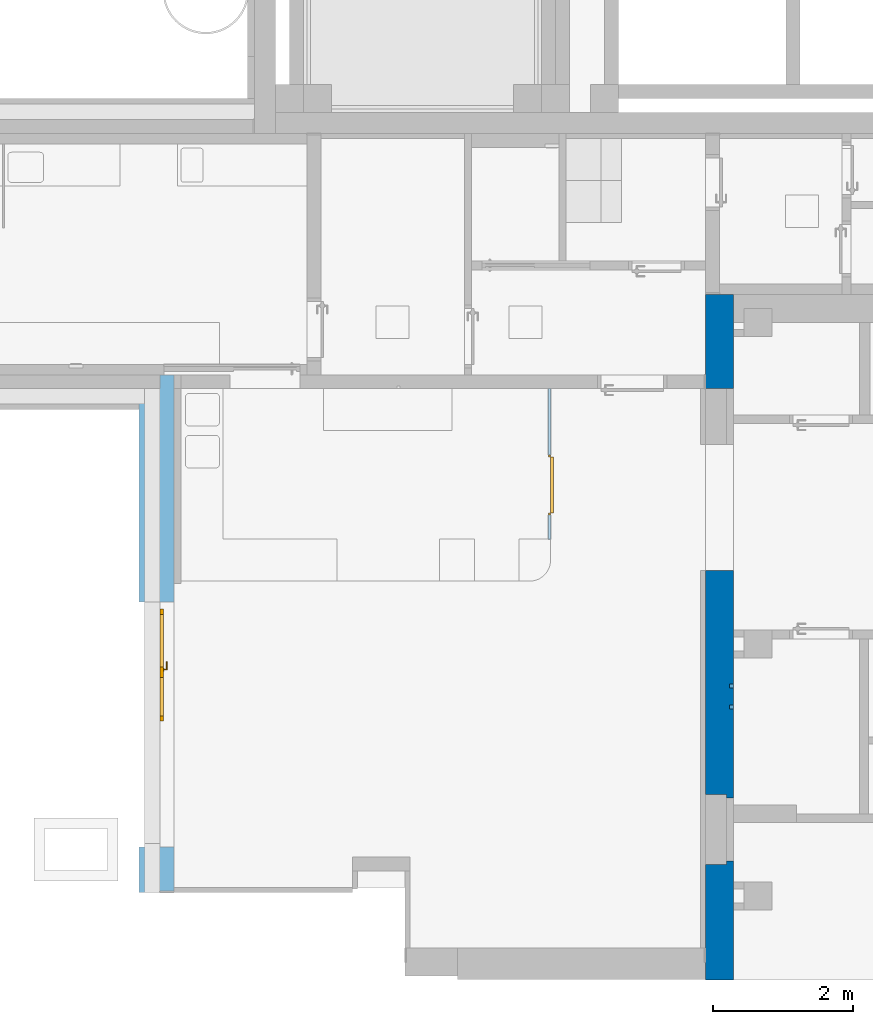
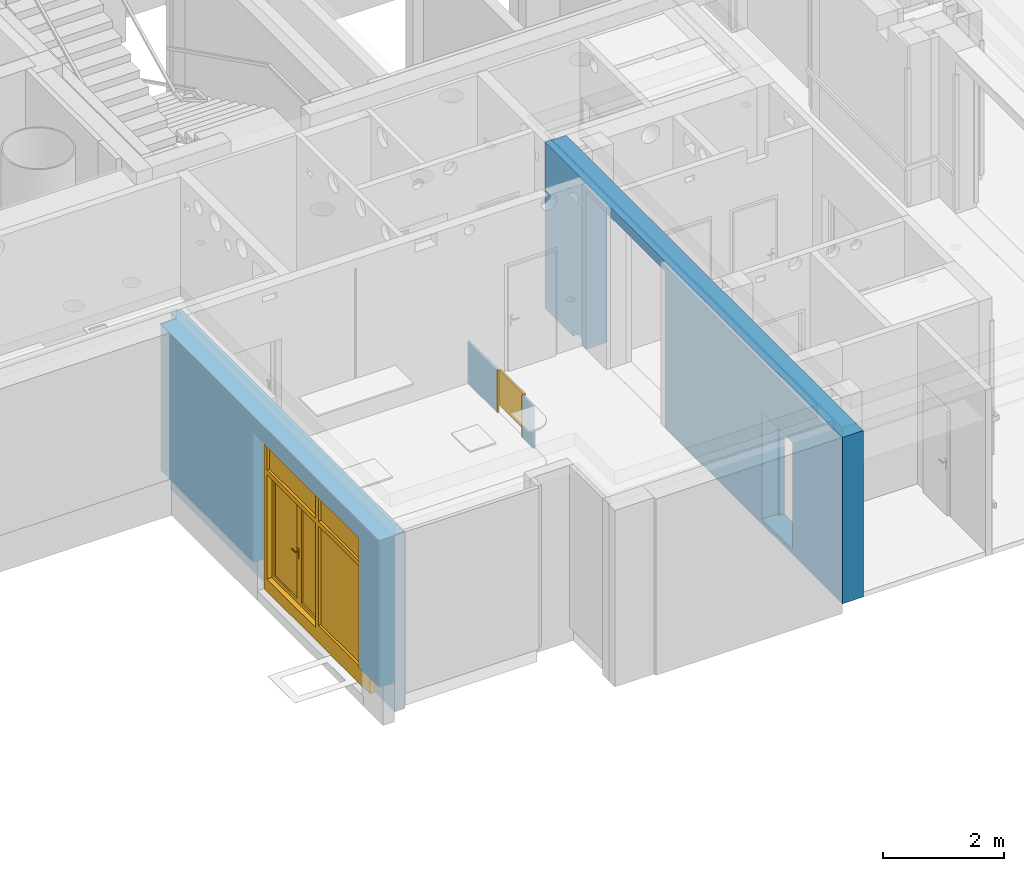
# One storey, part 66 of 140: 2 doors, 1 wall, 9 openings, plus 2 elements that do not belong to this part.
"""IFC4 building model written with IfcOpenShell, lengths in metres."""

import ifcopenshell
import ifcopenshell.guid

model = None  # the IFC model being written
_history = None  # IfcOwnerHistory: only IFC2X3 demands one
_inside = {}  # id of a spatial element -> (the spatial element, [elements in it])
_under = {}  # id of a project, library or spatial element -> (it, [spatial elements below it])
_declared = {}  # id of a project -> (the project, [libraries it declares])
_typed = {}  # id of a type object -> (the type object, [elements of that type])
_made_of = {}  # id of a material, layer set ... -> (it, [elements and type objects made of it])


def new_model(schema):
    """Start an empty IFC model of exactly this schema.

    Asked for "IFC4X3", IfcOpenShell would pick the latest addendum, in which some entities
    have other attributes; the version numbers below select the first issue.
    IFC2X3 requires an IfcOwnerHistory on every rooted entity: one is made here for all.
    """
    global model, _history
    if schema == "IFC4X3":
        model = ifcopenshell.file(schema_version=(4, 3, 0, 0))
    else:
        model = ifcopenshell.file(schema=schema)
    _inside.clear()
    _under.clear()
    _declared.clear()
    _typed.clear()
    _made_of.clear()
    _history = None
    if model.schema == "IFC2X3":
        org = make("IfcOrganization", Name="unknown")
        user = make(
            "IfcPersonAndOrganization",
            ThePerson=make("IfcPerson", FamilyName="unknown"),
            TheOrganization=org,
        )
        app = make(
            "IfcApplication",
            ApplicationDeveloper=org,
            Version="unknown",
            ApplicationFullName="unknown",
            ApplicationIdentifier="unknown",
        )
        _history = make(
            "IfcOwnerHistory",
            OwningUser=user,
            OwningApplication=app,
            ChangeAction="ADDED",
            CreationDate=0,
        )
    return model


def make(cls, **values):
    """One entity of the class cls with the attributes given. An attribute that is None is left unset."""
    return model.create_entity(
        cls, **{name: value for name, value in values.items() if value is not None}
    )


def entity(cls, *values):
    """Any entity or typed value of the class cls, its attributes in the order of the schema. None: left unset."""
    e = model.create_entity(cls)
    for i, value in enumerate(values):
        if value is not None:
            e[i] = value
    return e


def rooted(cls, **values):
    """An entity with a GlobalId (a new one), such as an element, a storey or a relation."""
    return make(cls, GlobalId=ifcopenshell.guid.new(), OwnerHistory=_history, **values)


def si_unit(unit_type, name, prefix=None):
    """IfcSIUnit, for example si_unit("LENGTHUNIT", "METRE", prefix="MILLI")."""
    return make("IfcSIUnit", UnitType=unit_type, Prefix=prefix, Name=name)


def converted_unit(unit_type, name, factor, base, dimensions=None, offset=None):
    """IfcConversionBasedUnit, such as the inch: factor (a typed value) times the base unit."""
    return make(
        "IfcConversionBasedUnit"
        if offset is None
        else "IfcConversionBasedUnitWithOffset",
        ConversionOffset=offset,
        Dimensions=None
        if dimensions is None
        else entity("IfcDimensionalExponents", *dimensions),
        UnitType=unit_type,
        Name=name,
        ConversionFactor=make(
            "IfcMeasureWithUnit", ValueComponent=factor, UnitComponent=base
        ),
    )


def derived_unit(unit_type, elements):
    """IfcDerivedUnit: a product of units, each with its exponent."""
    return make(
        "IfcDerivedUnit",
        Elements=[
            make("IfcDerivedUnitElement", Unit=unit, Exponent=power)
            for unit, power in elements
        ],
        UnitType=unit_type,
    )


def assignment(units):
    """IfcUnitAssignment: the units of a project."""
    return None if units is None else make("IfcUnitAssignment", Units=units)


def point(xyz):
    """IfcCartesianPoint."""
    return None if xyz is None else make("IfcCartesianPoint", Coordinates=xyz)


def direction(xyz):
    """IfcDirection."""
    return None if xyz is None else make("IfcDirection", DirectionRatios=xyz)


def frame(location, z_axis=None, x_axis=None):
    """IfcAxis2Placement3D, a coordinate frame: its origin and axes. An axis left out is left unset."""
    return make(
        "IfcAxis2Placement3D",
        Location=point(location),
        Axis=direction(z_axis),
        RefDirection=direction(x_axis),
    )


def frame_2d(location, x_axis=None):
    """IfcAxis2Placement2D, a coordinate frame in the plane: its origin and x axis."""
    return make(
        "IfcAxis2Placement2D", Location=point(location), RefDirection=direction(x_axis)
    )


def origin():
    """The frame at (0, 0, 0) with its axes left unset."""
    return frame((0.0, 0.0, 0.0))


def origin_with_axes():
    """The frame at (0, 0, 0) with the z axis (0, 0, 1) and the x axis (1, 0, 0) written out."""
    return frame((0.0, 0.0, 0.0), z_axis=(0.0, 0.0, 1.0), x_axis=(1.0, 0.0, 0.0))


def place(relative_to, where):
    """IfcLocalPlacement: puts the frame where relative to a parent placement (None: the world)."""
    return make(
        "IfcLocalPlacement", PlacementRelTo=relative_to, RelativePlacement=where
    )


def context(
    kind, dimensions, precision=None, world=None, true_north=None, identifier=None
):
    """IfcGeometricRepresentationContext, for example the 3D "Model" context."""
    return make(
        "IfcGeometricRepresentationContext",
        ContextIdentifier=identifier,
        ContextType=kind,
        CoordinateSpaceDimension=dimensions,
        Precision=precision,
        WorldCoordinateSystem=world,
        TrueNorth=true_north,
    )


def subcontext(parent, identifier, kind, view, scale=None):
    """IfcGeometricRepresentationSubContext, for example "Body" below "Model"."""
    return make(
        "IfcGeometricRepresentationSubContext",
        ContextIdentifier=identifier,
        ContextType=kind,
        ParentContext=parent,
        TargetScale=scale,
        TargetView=view,
    )


def project(units=None, contexts=None):
    """IfcProject with its units and contexts."""
    return rooted(
        "IfcProject",
        Name="project",
        RepresentationContexts=contexts,
        UnitsInContext=assignment(units),
    )


def spatial(cls, under=None, at=None, **own):
    """A site, building, storey or space (cls), placed at a placement, below another one or the project."""
    s = rooted(cls, ObjectPlacement=at, **own)
    if under is not None:
        _under.setdefault(under.id(), (under, []))[1].append(s)
    return s


def polyline(points):
    """IfcPolyline through the points."""
    return make("IfcPolyline", Points=[point(p) for p in points])


def profile(cls, at=None, kind="AREA", **sizes):
    """A parametric profile (cls). Its sizes go by their IFC names, for example OverallWidth=200.0."""
    return make(cls, ProfileType=kind, Position=at, **sizes)


def rectangle(**sizes):
    """IfcRectangleProfileDef."""
    return profile("IfcRectangleProfileDef", **sizes)


def outline(outer, holes=None, kind="AREA"):
    """IfcArbitraryClosedProfileDef: a profile drawn as a closed curve; with holes, ...WithVoids."""
    if holes is None:
        return make("IfcArbitraryClosedProfileDef", ProfileType=kind, OuterCurve=outer)
    return make(
        "IfcArbitraryProfileDefWithVoids",
        ProfileType=kind,
        OuterCurve=outer,
        InnerCurves=holes,
    )


def extrude(swept, where, along, depth):
    """IfcExtrudedAreaSolid: the profile swept, set in the frame where, extruded along a direction by depth."""
    return make(
        "IfcExtrudedAreaSolid",
        SweptArea=swept,
        Position=where,
        ExtrudedDirection=direction(along),
        Depth=depth,
    )


def clip(a, b, op="DIFFERENCE"):
    """IfcBooleanClippingResult: the solid a cut by the half space b."""
    return make(
        "IfcBooleanClippingResult", Operator=op, FirstOperand=a, SecondOperand=b
    )


def bounded_halfspace(plane, agree, where, boundary):
    """IfcPolygonalBoundedHalfSpace: a half space limited to a polygon's prism."""
    return make(
        "IfcPolygonalBoundedHalfSpace",
        BaseSurface=make("IfcPlane", Position=plane),
        AgreementFlag=agree,
        Position=where,
        PolygonalBoundary=boundary,
    )


def faces_of(points, faces, orient=None, outer=None):
    """IfcFace entities. A face is a list of loops; a loop is a list of indices into points, from 0.

    orient and outer hold one flag for each loop. By default every Orientation is true, the
    first loop of a face is its IfcFaceOuterBound and the others are IfcFaceBound.
    """
    made = []
    for i, loops in enumerate(faces):
        bounds = []
        for j, loop in enumerate(loops):
            is_outer = j == 0 if outer is None else outer[i][j]
            bounds.append(
                make(
                    "IfcFaceOuterBound" if is_outer else "IfcFaceBound",
                    Bound=make("IfcPolyLoop", Polygon=[points[k] for k in loop]),
                    Orientation=True if orient is None else orient[i][j],
                )
            )
        made.append(make("IfcFace", Bounds=bounds))
    return made


def closed_shell(faces, orient=None, outer=None):
    """The faces of one IfcClosedShell. faceted_brep and surface_model build it on their shared points."""
    return ("IfcClosedShell", faces, orient, outer)


def open_shell(faces, orient=None, outer=None):
    """The faces of one IfcOpenShell. surface_model builds it on its shared points."""
    return ("IfcOpenShell", faces, orient, outer)


def faceted_brep(points, faces, orient=None, outer=None, voids=None):
    """IfcFacetedBrep: a solid bounded by flat faces; with voids (closed shells), ...WithVoids."""
    shared = [point(p) for p in points]
    hull = make("IfcClosedShell", CfsFaces=faces_of(shared, faces, orient, outer))
    if voids is None:
        return make("IfcFacetedBrep", Outer=hull)
    return make(
        "IfcFacetedBrepWithVoids",
        Outer=hull,
        Voids=[
            make(cls, CfsFaces=faces_of(shared, fs, o, b)) for cls, fs, o, b in voids
        ],
    )


def surface_model(cls, points, shells):
    """IfcFaceBasedSurfaceModel or IfcShellBasedSurfaceModel (cls): surfaces that need not close."""
    shared = [point(p) for p in points]
    made = [make(c, CfsFaces=faces_of(shared, fs, o, b)) for c, fs, o, b in shells]
    if cls == "IfcFaceBasedSurfaceModel":
        return make(cls, FbsmFaces=made)
    return make(cls, SbsmBoundary=made)


def shape(context_of_items, identifier, shape_type, items):
    """IfcShapeRepresentation: the items that make up one representation, for example the "Body"."""
    return make(
        "IfcShapeRepresentation",
        ContextOfItems=context_of_items,
        RepresentationIdentifier=identifier,
        RepresentationType=shape_type,
        Items=items,
    )


def source(mapping_origin, context_of_items, identifier, shape_type, items):
    """IfcRepresentationMap: a shape defined once, which mapped items show again and again."""
    return make(
        "IfcRepresentationMap",
        MappingOrigin=mapping_origin,
        MappedRepresentation=shape(context_of_items, identifier, shape_type, items),
    )


def transform(
    local_origin,
    x_axis=None,
    y_axis=None,
    z_axis=None,
    scale=None,
    scale2=None,
    scale3=None,
    uniform=True,
):
    """IfcCartesianTransformationOperator3D, or its non-uniform kind. x_axis, y_axis, z_axis: its Axis1, 2, 3."""
    if uniform:
        return make(
            "IfcCartesianTransformationOperator3D",
            Axis1=direction(x_axis),
            Axis2=direction(y_axis),
            LocalOrigin=point(local_origin),
            Scale=scale,
            Axis3=direction(z_axis),
        )
    return make(
        "IfcCartesianTransformationOperator3DnonUniform",
        Axis1=direction(x_axis),
        Axis2=direction(y_axis),
        LocalOrigin=point(local_origin),
        Scale=scale,
        Axis3=direction(z_axis),
        Scale2=scale2,
        Scale3=scale3,
    )


def mapped(mapping_source, mapping_target):
    """IfcMappedItem: shows the shape of a source again, moved by a transform."""
    return make(
        "IfcMappedItem", MappingSource=mapping_source, MappingTarget=mapping_target
    )


def material(Name=None, Category=None):
    """IfcMaterial."""
    return make("IfcMaterial", Name=Name, Category=Category)


def layer(
    of_material, thickness, ventilated=None, Name=None, Category=None, Priority=None
):
    """IfcMaterialLayer: one layer of a wall or slab, of a material (None: an air gap)."""
    return make(
        "IfcMaterialLayer",
        Material=of_material,
        LayerThickness=thickness,
        IsVentilated=ventilated,
        Name=Name,
        Category=Category,
        Priority=Priority,
    )


def layer_set(layers, Name=None):
    """IfcMaterialLayerSet."""
    return make("IfcMaterialLayerSet", MaterialLayers=layers, LayerSetName=Name)


def layer_usage(for_layer_set, set_direction, sense, offset, extent=None):
    """IfcMaterialLayerSetUsage: how a layer set lies in its element."""
    return make(
        "IfcMaterialLayerSetUsage",
        ForLayerSet=for_layer_set,
        LayerSetDirection=set_direction,
        DirectionSense=sense,
        OffsetFromReferenceLine=offset,
        ReferenceExtent=extent,
    )


def made_of(thing, what):
    """Note that an element or type object is made of a material, layer set ...; save() writes the relation."""
    if what is not None:
        _made_of.setdefault(what.id(), (what, []))[1].append(thing)
    return thing


def type_object(cls, material=None, **own):
    """A type object (cls), such as IfcWallType, which elements share."""
    return made_of(rooted(cls, **own), material)


def element(
    cls,
    number,
    at=None,
    inside=None,
    cuts=None,
    type_object=None,
    material=None,
    context=None,
    identifier="Body",
    shape_type=None,
    held_by="IfcProductDefinitionShape",
    body=None,
    shapes=None,
    **own,
):
    """One element of the class cls, such as IfcWall. Its Tag is "e" and its number.

    at: its placement. inside: the storey or other place that contains it. cuts: it is an
    opening in that element (IfcRelVoidsElement). A single representation is given by context,
    identifier, shape_type and body (its items); several are given by shapes. held_by: the class
    of the entity that holds the representations. save() writes the other relations.
    """
    e = rooted(cls, Tag="e%d" % number, ObjectPlacement=at, **own)
    if body is not None:
        shapes = [shape(context, identifier, shape_type, body)]
    if shapes is not None:
        e.Representation = make(held_by, Representations=shapes)
    if inside is not None:
        _inside.setdefault(inside.id(), (inside, []))[1].append(e)
    if cuts is not None:
        rooted(
            "IfcRelVoidsElement", RelatingBuildingElement=cuts, RelatedOpeningElement=e
        )
    if type_object is not None:
        _typed.setdefault(type_object.id(), (type_object, []))[1].append(e)
    return made_of(e, material)


def fill(opening, filler):
    """IfcRelFillsElement: the door or window that sits in an opening."""
    return rooted(
        "IfcRelFillsElement",
        RelatingOpeningElement=opening,
        RelatedBuildingElement=filler,
    )


def aggregate(whole, parts):
    """IfcRelAggregates: a whole, such as a stair, and the parts it consists of."""
    return rooted("IfcRelAggregates", RelatingObject=whole, RelatedObjects=parts)


def save(model, path):
    """Write the relations noted so far, then the file.

    IfcRelAggregates (storeys below a building ...), IfcRelContainedInSpatialStructure (elements
    in a storey), IfcRelDefinesByType, IfcRelAssociatesMaterial and IfcRelDeclares: one each for
    every whole, place, type object, material and project.
    """
    for whole, parts in _under.values():
        aggregate(whole, parts)
    for where, things in _inside.values():
        rooted(
            "IfcRelContainedInSpatialStructure",
            RelatedElements=things,
            RelatingStructure=where,
        )
    for kind, things in _typed.values():
        rooted("IfcRelDefinesByType", RelatedObjects=things, RelatingType=kind)
    for what, things in _made_of.values():
        rooted("IfcRelAssociatesMaterial", RelatedObjects=things, RelatingMaterial=what)
    for by, libraries in _declared.values():
        rooted("IfcRelDeclares", RelatingContext=by, RelatedDefinitions=libraries)
    model.write(path)


model = new_model("IFC4")

# Units and contexts
model_context = context("Model", 3, precision=1e-05, world=origin())
body_context = subcontext(model_context, "Body", "Model", "MODEL_VIEW")
ifc_project = project(units=[si_unit("LENGTHUNIT", "METRE"), si_unit("AREAUNIT", "SQUARE_METRE"), si_unit("VOLUMEUNIT", "CUBIC_METRE"), si_unit("MASSUNIT", "GRAM", prefix="KILO"), converted_unit("PLANEANGLEUNIT", "DEGREE", entity("IfcPlaneAngleMeasure", 0.0174532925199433), si_unit("PLANEANGLEUNIT", "RADIAN"), dimensions=[0, 0, 0, 0, 0, 0, 0]), derived_unit("THERMALTRANSMITTANCEUNIT", [(si_unit("POWERUNIT", "WATT"), 1), (si_unit("THERMODYNAMICTEMPERATUREUNIT", "KELVIN"), -1), (si_unit("LENGTHUNIT", "METRE"), -2)]), derived_unit("VOLUMETRICFLOWRATEUNIT", [(si_unit("LENGTHUNIT", "METRE"), 3), (converted_unit("TIMEUNIT", "hour", entity("IfcTimeMeasure", 3600.0), si_unit("TIMEUNIT", "SECOND"), dimensions=[0, 0, 1, 0, 0, 0, 0]), -1), (si_unit("LENGTHUNIT", "METRE"), -1)])], contexts=[model_context])

# Site, building, storey
site_placement = place(None, origin())
site = spatial("IfcSite", under=ifc_project, at=site_placement, Name="3. ASŘ", CompositionType="ELEMENT")
building_placement = place(site_placement, origin())
building = spatial("IfcBuilding", under=site, at=building_placement, Name="Pavilon C", CompositionType="ELEMENT")
storey_placement = place(building_placement, origin())
storey = spatial("IfcBuildingStorey", under=building, at=storey_placement, Name="Půdorys 1.NP", CompositionType="ELEMENT", Elevation=0.0)

# Wall, openings
ifc_material_1 = material(Name="STÁVAJÍC KCE")
wall_1_placement = place(storey_placement, frame((36.8, -16.6, -0.1)))
wall_1 = element("IfcWall", 1, at=wall_1_placement, inside=storey, material=ifc_material_1, Name="STÁVAJÍCÍ KCE", context=body_context, shape_type="Brep", body=[
    faceted_brep([(0.0, 2.65, 2.25), (0.0, 1.65, 2.25), (0.3, 1.65, 2.25), (0.3, 2.65, 2.25), (0.3, 2.65, 0.1), (0.0, 2.65, 0.1), (0.0, 1.65, 0.1), (0.3, 1.65, 0.1), (0.3, 2.6, 2.12), (0.3, 2.6, 0.1), (0.3, 1.7, 0.1), (0.3, 1.7, 2.12), (0.0, 2.6, 2.12), (0.0, 2.6, 0.1), (0.0, 1.7, 2.12), (0.0, 1.7, 0.1), (0.4, 9.8, 0.0), (0.4, 0.0, 0.0), (0.4, 0.0, 3.35), (0.4, 9.8, 3.35), (0.0, 0.0, 0.0), (0.0, 0.0, 3.35), (0.0, 9.8, 0.0), (0.0, 9.8, 3.35)], [[[0, 1, 2, 3]], [[4, 5, 0, 3]], [[6, 7, 2, 1]], [[8, 9, 4, 3, 2, 7, 10, 11]], [[12, 13, 9, 8]], [[5, 4, 9, 13]], [[14, 12, 8, 11]], [[11, 10, 15, 14]], [[7, 6, 15, 10]], [[16, 17, 18, 19]], [[17, 20, 21, 18]], [[20, 22, 23, 21], [5, 13, 12, 14, 15, 6, 1, 0]], [[22, 16, 19, 23]], [[23, 19, 18, 21]], [[16, 22, 20, 17]]], orient=[[False], [False], [False], [False], [False], [False], [False], [False], [False], [False], [False], [False, False], [False], [False], [False]]),
])
opening_1_placement = place(wall_1_placement, frame((0.4, 3.97500000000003, -0.05), z_axis=(-1.0, 0.0, 0.0), x_axis=(0.0, 0.0, 1.0)))
element("IfcOpeningElement", 2, at=opening_1_placement, cuts=wall_1, Name="ZTI HL.100", ObjectType="Opening", context=body_context, shape_type="SweptSolid", body=[
    extrude(outline(polyline([(0.0, 0.15), (0.85, 0.15), (0.85, 0.0), (0.0, 0.0), (0.0, 0.15)])), origin_with_axes(), (0.0, 0.0, 1.0), 0.0999999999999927),
])
opening_2_placement = place(wall_1_placement, frame((0.4, 4.17000000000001, 0.67), z_axis=(-1.0, 0.0, 0.0), x_axis=(0.0, 0.0, 1.0)))
element("IfcOpeningElement", 3, at=opening_2_placement, cuts=wall_1, Name="ZTI HL.60", ObjectType="Opening", context=body_context, shape_type="SweptSolid", body=[
    extrude(outline(polyline([(0.0, 0.06), (2.28, 0.06), (2.28, 0.0), (0.0, 0.0), (0.0, 0.06)])), origin_with_axes(), (0.0, 0.0, 1.0), 0.06),
])
opening_3_placement = place(wall_1_placement, frame((0.399999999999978, 3.87000000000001, 0.67), z_axis=(-1.0, 0.0, 0.0), x_axis=(0.0, 0.0, 1.0)))
element("IfcOpeningElement", 4, at=opening_3_placement, cuts=wall_1, Name="ZTI HL.60", ObjectType="Opening", context=body_context, shape_type="SweptSolid", body=[
    extrude(outline(polyline([(0.0, 0.06), (2.28, 0.06), (2.28, 0.0), (0.0, 0.0), (0.0, 0.06)])), origin_with_axes(), (0.0, 0.0, 1.0), 0.06),
])
opening_4_placement = place(wall_1_placement, frame((0.4, 1.7, 0.1), z_axis=(-1.0, 0.0, 0.0), x_axis=(0.0, 0.0, 1.0)))
element("IfcOpeningElement", 5, at=opening_4_placement, cuts=wall_1, Name="Dveřní otvor", ObjectType="Opening", context=body_context, shape_type="SweptSolid", body=[
    extrude(outline(polyline([(0.0, 0.9), (2.02, 0.9), (2.02, 0.0), (0.0, 0.0), (0.0, 0.9)])), origin_with_axes(), (0.0, 0.0, 1.0), 0.4),
])
opening_5_placement = place(wall_1_placement, frame((0.0, 8.45, 0.0), z_axis=(1.0, 0.0, 0.0), x_axis=(0.0, 0.0, 1.0)))
element("IfcOpeningElement", 6, at=opening_5_placement, cuts=wall_1, Name="Dveřní otvor", ObjectType="Opening", context=body_context, shape_type="SweptSolid", body=[
    extrude(outline(polyline([(0.0, 2.6), (3.15, 2.6), (3.15, 0.0), (0.0, 0.0), (0.0, 2.6)])), origin_with_axes(), (0.0, 0.0, 1.0), 0.4),
])
opening_6_placement = place(wall_1_placement, frame((0.0, 9.04300000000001, 2.77), z_axis=(1.0, 0.0, 0.0), x_axis=(0.0, 0.0, 1.0)))
element("IfcOpeningElement", 7, at=opening_6_placement, cuts=wall_1, Name="ZTI", ObjectType="Opening", context=body_context, shape_type="SweptSolid", body=[
    extrude(outline(polyline([(0.0, 0.35), (0.15, 0.35), (0.15, 0.0), (0.0, 0.0), (0.0, 0.35)])), origin_with_axes(), (0.0, 0.0, 1.0), 0.4),
])
opening_7_placement = place(wall_1_placement, frame((0.0, 8.87910290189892, -0.02), z_axis=(1.0, 0.0, 0.0), x_axis=(0.0, 0.0, 1.0)))
element("IfcOpeningElement", 8, at=opening_7_placement, cuts=wall_1, Name="UT", ObjectType="Opening", context=body_context, shape_type="SweptSolid", body=[
    extrude(outline(polyline([(0.0, 0.3), (0.15, 0.3), (0.15, 0.0), (0.0, 0.0), (0.0, 0.3)])), origin_with_axes(), (0.0, 0.0, 1.0), 0.4),
])

# Wall, opening, door
ifc_material_2 = material(Name="ZELEZOBETONOVÁ KCE")
ifc_layer_1 = layer(ifc_material_2, 0.2)
ifc_material_3 = material(Name="MINERÁLNÍ VATA")
ifc_layer_2 = layer(ifc_material_3, 0.3)
ifc_layer_set_1 = layer_set([ifc_layer_1, ifc_layer_2])
ifc_layer_usage_1 = layer_usage(ifc_layer_set_1, "AXIS2", "POSITIVE", 0.0)
wall_2_placement = place(storey_placement, frame((29.2, -15.33, -0.3), z_axis=(0.0, 0.0, 1.0), x_axis=(0.0, 1.0, 0.0)))
wall_2 = element("IfcWall", 9, at=wall_2_placement, inside=storey, material=ifc_layer_usage_1, Name="ZELEZOBETONOVÁ KCE", context=body_context, shape_type="Clipping", body=[
    clip(extrude(outline(polyline([(0.02, -0.5), (7.39999999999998, -0.5), (7.39999999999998, -0.3), (7.19999999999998, -0.3), (7.19999999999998, 0.0), (0.0, 0.0), (0.0, -0.3), (0.02, -0.3), (0.02, -0.5)])), frame((-0.02, 0.5, 0.0), z_axis=(0.0, 0.0, 1.0), x_axis=(1.0, 0.0, 0.0)), (0.0, 0.0, 1.0), 3.55), bounded_halfspace(frame((2.86399999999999, 0.32, 0.6), z_axis=(0.0, 0.0, 1.0), x_axis=(0.0, -1.0, 0.0)), True, origin_with_axes(), polyline([(-0.02, 0.5), (-0.02, 0.2), (0.0, 0.2), (7.17999999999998, 0.2), (7.17999999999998, 0.5), (-0.02, 0.5)]))),
])
opening_8_placement = place(wall_2_placement, frame((4.13000000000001, 0.2, 0.0), z_axis=(0.0, -1.0, 0.0), x_axis=(0.0, 0.0, 1.0)))
opening_8 = element("IfcOpeningElement", 10, at=opening_8_placement, cuts=wall_2, Name="Dveřní otvor", ObjectType="Opening", context=body_context, shape_type="SweptSolid", body=[
    extrude(outline(polyline([(0.0, 3.5), (3.2, 3.5), (3.2, 0.0), (0.0, 0.0), (0.0, 3.5)])), origin_with_axes(), (0.0, 0.0, 1.0), 0.2),
    extrude(outline(polyline([(0.0, 3.5), (3.2, 3.5), (3.2, 0.0), (0.0, 0.0), (0.0, 3.5)])), frame((0.0, 0.0, -0.3), z_axis=(0.0, 0.0, 1.0), x_axis=(1.0, 0.0, 0.0)), (0.0, 0.0, 1.0), 0.3),
])
door_type_1 = type_object("IfcDoorType", Name="II.DF01", OperationType="NOTDEFINED", ParameterTakesPrecedence=False, PredefinedType="DOOR")
shared_shape_1 = source(origin_with_axes(), body_context, "Body", "SurfaceModel", [
    surface_model("IfcShellBasedSurfaceModel", [(0.0, 0.095, 0.25), (0.0, 0.095, -5.81707229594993e-18), (3.5, 0.095, -5.81707229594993e-18), (3.5, 0.095, 0.25), (0.0, 0.0, 5.81707229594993e-18), (0.0, 2.8421709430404e-17, 0.25), (3.5, 2.8421709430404e-17, 0.25), (3.5, 0.0, 5.81707229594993e-18)], [closed_shell([[[0, 1, 2, 3]], [[4, 5, 6, 7]], [[1, 0, 5, 4]], [[2, 1, 4, 7]], [[3, 2, 7, 6]], [[0, 3, 6, 5]]], orient=[[False], [False], [False], [False], [False], [False]])]),
    surface_model("IfcShellBasedSurfaceModel", [(0.0, 0.0950000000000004, 3.2), (0.0, 0.095, 0.25), (0.1, 0.095, 0.25), (0.1, 0.0950000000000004, 3.2), (0.0, 2.8421709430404e-17, 0.25), (0.0, 3.83693077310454e-16, 3.2), (0.1, 3.83693077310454e-16, 3.2), (0.1, 2.8421709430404e-17, 0.25)], [closed_shell([[[0, 1, 2, 3]], [[4, 5, 6, 7]], [[1, 0, 5, 4]], [[2, 1, 4, 7]], [[3, 2, 7, 6]], [[0, 3, 6, 5]]], orient=[[False], [False], [False], [False], [False], [False]])]),
    surface_model("IfcShellBasedSurfaceModel", [(3.4, 0.0950000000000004, 3.2), (3.4, 0.095, 0.25), (3.5, 0.095, 0.25), (3.5, 0.0950000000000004, 3.2), (3.4, 2.8421709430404e-17, 0.25), (3.4, 3.83693077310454e-16, 3.2), (3.5, 3.83693077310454e-16, 3.2), (3.5, 2.8421709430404e-17, 0.25)], [closed_shell([[[0, 1, 2, 3]], [[4, 5, 6, 7]], [[1, 0, 5, 4]], [[2, 1, 4, 7]], [[3, 2, 7, 6]], [[0, 3, 6, 5]]], orient=[[False], [False], [False], [False], [False], [False]])]),
    surface_model("IfcShellBasedSurfaceModel", [(0.1, 0.0950000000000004, 3.2), (0.1, 0.0950000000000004, 3.1), (3.4, 0.0950000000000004, 3.1), (3.4, 0.0950000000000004, 3.2), (0.1, 3.83693077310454e-16, 3.1), (0.1, 3.97903932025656e-16, 3.2), (3.4, 3.97903932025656e-16, 3.2), (3.4, 3.83693077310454e-16, 3.1)], [closed_shell([[[0, 1, 2, 3]], [[4, 5, 6, 7]], [[1, 0, 5, 4]], [[2, 1, 4, 7]], [[3, 2, 7, 6]], [[0, 3, 6, 5]]], orient=[[False], [False], [False], [False], [False], [False]])]),
    surface_model("IfcShellBasedSurfaceModel", [(1.7, 0.0950000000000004, 3.1), (1.7, 0.095, 0.25), (1.8, 0.095, 0.25), (1.8, 0.0950000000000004, 3.1), (1.7, 2.8421709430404e-17, 0.25), (1.7, 3.83693077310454e-16, 3.1), (1.8, 3.83693077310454e-16, 3.1), (1.8, 2.8421709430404e-17, 0.25)], [closed_shell([[[0, 1, 2, 3]], [[4, 5, 6, 7]], [[1, 0, 5, 4]], [[2, 1, 4, 7]], [[3, 2, 7, 6]], [[0, 3, 6, 5]]], orient=[[False], [False], [False], [False], [False], [False]])]),
    surface_model("IfcShellBasedSurfaceModel", [(0.1, 0.0950000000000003, 2.45), (0.1, 0.0950000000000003, 2.35), (1.7, 0.0950000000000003, 2.35), (1.7, 0.0950000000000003, 2.45), (0.1, 2.8421709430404e-16, 2.35), (0.1, 2.98427949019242e-16, 2.45), (1.7, 2.98427949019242e-16, 2.45), (1.7, 2.8421709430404e-16, 2.35)], [closed_shell([[[0, 1, 2, 3]], [[4, 5, 6, 7]], [[1, 0, 5, 4]], [[2, 1, 4, 7]], [[3, 2, 7, 6]], [[0, 3, 6, 5]]], orient=[[False], [False], [False], [False], [False], [False]])]),
    surface_model("IfcShellBasedSurfaceModel", [(1.8, 0.0950000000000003, 2.45), (1.8, 0.0950000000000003, 2.35), (3.4, 0.0950000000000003, 2.35), (3.4, 0.0950000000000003, 2.45), (1.8, 2.8421709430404e-16, 2.35), (1.8, 2.98427949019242e-16, 2.45), (3.4, 2.98427949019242e-16, 2.45), (3.4, 2.8421709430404e-16, 2.35)], [closed_shell([[[0, 1, 2, 3]], [[4, 5, 6, 7]], [[1, 0, 5, 4]], [[2, 1, 4, 7]], [[3, 2, 7, 6]], [[0, 3, 6, 5]]], orient=[[False], [False], [False], [False], [False], [False]])]),
    surface_model("IfcShellBasedSurfaceModel", [(0.1, 0.0475000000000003, 2.45), (1.7, 0.0475000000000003, 2.45), (1.7, 0.0475000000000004, 3.1), (0.1, 0.0475000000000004, 3.1)], [open_shell([[[0, 1, 2, 3]]], orient=[[False]])]),
    surface_model("IfcShellBasedSurfaceModel", [(1.8, 0.095, 0.35), (1.8, 0.095, 0.25), (3.4, 0.095, 0.25), (3.4, 0.095, 0.35), (1.8, 2.8421709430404e-17, 0.25), (1.8, 4.2632564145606e-17, 0.35), (3.4, 4.2632564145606e-17, 0.35), (3.4, 2.8421709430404e-17, 0.25)], [closed_shell([[[0, 1, 2, 3]], [[4, 5, 6, 7]], [[1, 0, 5, 4]], [[2, 1, 4, 7]], [[3, 2, 7, 6]], [[0, 3, 6, 5]]], orient=[[False], [False], [False], [False], [False], [False]])]),
    surface_model("IfcShellBasedSurfaceModel", [(1.8, 0.0475000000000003, 2.45), (3.4, 0.0475000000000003, 2.45), (3.4, 0.0475000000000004, 3.1), (1.8, 0.0475000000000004, 3.1)], [open_shell([[[0, 1, 2, 3]]], orient=[[False]])]),
    surface_model("IfcShellBasedSurfaceModel", [(0.1, 0.145, 2.35), (0.1, 0.145, 0.25), (0.175, 0.145, 0.25), (0.175, 0.145, 2.35), (0.1, 0.095, 0.25), (0.1, 0.0950000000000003, 2.35), (0.175, 0.0950000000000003, 2.35), (0.175, 0.095, 0.25)], [closed_shell([[[0, 1, 2, 3]], [[4, 5, 6, 7]], [[1, 0, 5, 4]], [[2, 1, 4, 7]], [[3, 2, 7, 6]], [[0, 3, 6, 5]]], orient=[[False], [False], [False], [False], [False], [False]])]),
    surface_model("IfcShellBasedSurfaceModel", [(0.925, 0.145, 2.35), (0.925, 0.145, 0.25), (1.0, 0.145, 0.25), (1.0, 0.145, 2.35), (0.925, 0.095, 0.25), (0.925, 0.0950000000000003, 2.35), (1.0, 0.0950000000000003, 2.35), (1.0, 0.095, 0.25)], [closed_shell([[[0, 1, 2, 3]], [[4, 5, 6, 7]], [[1, 0, 5, 4]], [[2, 1, 4, 7]], [[3, 2, 7, 6]], [[0, 3, 6, 5]]], orient=[[False], [False], [False], [False], [False], [False]])]),
    surface_model("IfcShellBasedSurfaceModel", [(0.175, 0.145, 0.325), (0.175, 0.145, 0.25), (0.925, 0.145, 0.25), (0.925, 0.145, 0.325), (0.175, 0.095, 0.25), (0.175, 0.095, 0.325), (0.925, 0.095, 0.325), (0.925, 0.095, 0.25)], [closed_shell([[[0, 1, 2, 3]], [[4, 5, 6, 7]], [[1, 0, 5, 4]], [[2, 1, 4, 7]], [[3, 2, 7, 6]], [[0, 3, 6, 5]]], orient=[[False], [False], [False], [False], [False], [False]])]),
    surface_model("IfcShellBasedSurfaceModel", [(0.175, 0.145, 2.35), (0.175, 0.145, 2.275), (0.925, 0.145, 2.275), (0.925, 0.145, 2.35), (0.175, 0.0950000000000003, 2.275), (0.175, 0.0950000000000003, 2.35), (0.925, 0.0950000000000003, 2.35), (0.925, 0.0950000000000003, 2.275)], [closed_shell([[[0, 1, 2, 3]], [[4, 5, 6, 7]], [[1, 0, 5, 4]], [[2, 1, 4, 7]], [[3, 2, 7, 6]], [[0, 3, 6, 5]]], orient=[[False], [False], [False], [False], [False], [False]])]),
    surface_model("IfcShellBasedSurfaceModel", [(0.9375, 0.0950000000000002, 1.375), (0.9375, 0.0950000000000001, 1.16), (0.9875, 0.0950000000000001, 1.16), (0.9875, 0.0950000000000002, 1.375), (0.9375, 0.0850000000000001, 1.16), (0.9375, 0.0850000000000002, 1.375), (0.9875, 0.0850000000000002, 1.375), (0.9875, 0.0850000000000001, 1.16)], [closed_shell([[[0, 1, 2, 3]], [[4, 5, 6, 7]], [[1, 0, 5, 4]], [[2, 1, 4, 7]], [[3, 2, 7, 6]], [[0, 3, 6, 5]]], orient=[[False], [False], [False], [False], [False], [False]])]),
    surface_model("IfcShellBasedSurfaceModel", [(0.9625, 0.0850000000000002, 1.31), (0.9575, 0.0850000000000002, 1.30866025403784), (0.953839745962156, 0.0850000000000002, 1.305), (0.9525, 0.0850000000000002, 1.3), (0.953839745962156, 0.0850000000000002, 1.295), (0.9575, 0.0850000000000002, 1.29133974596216), (0.9625, 0.0850000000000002, 1.29), (0.9675, 0.0850000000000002, 1.29133974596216), (0.971160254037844, 0.0850000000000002, 1.295), (0.9725, 0.0850000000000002, 1.3), (0.971160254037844, 0.0850000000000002, 1.305), (0.9675, 0.0850000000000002, 1.30866025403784), (0.9675, 0.0400000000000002, 1.30866025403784), (0.9625, 0.0450000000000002, 1.31), (0.971160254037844, 0.0363397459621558, 1.305), (0.9725, 0.0350000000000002, 1.3), (0.971160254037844, 0.0363397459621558, 1.295), (0.9675, 0.0400000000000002, 1.29133974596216), (0.9625, 0.0450000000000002, 1.29), (0.9575, 0.0500000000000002, 1.29133974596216), (0.953839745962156, 0.0536602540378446, 1.295), (0.9525, 0.0550000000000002, 1.3), (0.953839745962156, 0.0536602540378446, 1.305), (0.9575, 0.0500000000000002, 1.30866025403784), (0.8475, 0.0400000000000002, 1.30866025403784), (0.8475, 0.0450000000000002, 1.31), (0.8475, 0.0363397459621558, 1.305), (0.8475, 0.0350000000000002, 1.3), (0.8475, 0.0363397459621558, 1.295), (0.8475, 0.0400000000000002, 1.29133974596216), (0.8475, 0.0450000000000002, 1.29), (0.8475, 0.0500000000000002, 1.29133974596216), (0.8475, 0.0536602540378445, 1.295), (0.8475, 0.0550000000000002, 1.3), (0.8475, 0.0536602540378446, 1.305), (0.8475, 0.0500000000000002, 1.30866025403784)], [open_shell([[[0, 1, 2, 3, 4, 5, 6, 7, 8, 9, 10, 11]], [[0, 11, 12, 13]], [[11, 10, 14, 12]], [[10, 9, 15, 14]], [[9, 8, 16, 15]], [[8, 7, 17, 16]], [[7, 6, 18, 17]], [[6, 5, 19, 18]], [[5, 4, 20, 19]], [[4, 3, 21, 20]], [[3, 2, 22, 21]], [[2, 1, 23, 22]], [[1, 0, 13, 23]], [[13, 12, 24, 25]], [[12, 14, 26, 24]], [[14, 15, 27, 26]], [[15, 16, 28, 27]], [[16, 17, 29, 28]], [[17, 18, 30, 29]], [[18, 19, 31, 30]], [[19, 20, 32, 31]], [[20, 21, 33, 32]], [[21, 22, 34, 33]], [[22, 23, 35, 34]], [[23, 13, 25, 35]]], orient=[[False], [False], [False], [False], [False], [False], [False], [False], [False], [False], [False], [False], [False], [False], [False], [False], [False], [False], [False], [False], [False], [False], [False], [False], [False]])]),
    surface_model("IfcShellBasedSurfaceModel", [(0.9375, 0.145, 1.375), (0.9875, 0.145, 1.375), (0.9875, 0.145, 1.16), (0.9375, 0.145, 1.16), (0.9375, 0.155, 1.16), (0.9875, 0.155, 1.16), (0.9875, 0.155, 1.375), (0.9375, 0.155, 1.375)], [closed_shell([[[0, 1, 2, 3]], [[4, 5, 6, 7]], [[3, 4, 7, 0]], [[2, 5, 4, 3]], [[1, 6, 5, 2]], [[0, 7, 6, 1]]], orient=[[False], [False], [False], [False], [False], [False]])]),
    surface_model("IfcShellBasedSurfaceModel", [(0.9625, 0.155, 1.31), (0.9675, 0.155, 1.30866025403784), (0.971160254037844, 0.155, 1.305), (0.9725, 0.155, 1.3), (0.971160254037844, 0.155, 1.295), (0.9675, 0.155, 1.29133974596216), (0.9625, 0.155, 1.29), (0.9575, 0.155, 1.29133974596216), (0.953839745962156, 0.155, 1.295), (0.9525, 0.155, 1.3), (0.953839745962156, 0.155, 1.305), (0.9575, 0.155, 1.30866025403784), (0.9625, 0.195, 1.31), (0.9675, 0.2, 1.30866025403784), (0.971160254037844, 0.203660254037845, 1.305), (0.9725, 0.205, 1.3), (0.971160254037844, 0.203660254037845, 1.295), (0.9675, 0.2, 1.29133974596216), (0.9625, 0.195, 1.29), (0.9575, 0.19, 1.29133974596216), (0.953839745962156, 0.186339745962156, 1.295), (0.9525, 0.185, 1.3), (0.953839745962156, 0.186339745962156, 1.305), (0.9575, 0.19, 1.30866025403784), (0.8475, 0.195, 1.31), (0.8475, 0.2, 1.30866025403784), (0.8475, 0.203660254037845, 1.305), (0.8475, 0.205, 1.3), (0.8475, 0.203660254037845, 1.295), (0.8475, 0.2, 1.29133974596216), (0.8475, 0.195, 1.29), (0.8475, 0.19, 1.29133974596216), (0.8475, 0.186339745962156, 1.295), (0.8475, 0.185, 1.3), (0.8475, 0.186339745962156, 1.305), (0.8475, 0.19, 1.30866025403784)], [open_shell([[[0, 1, 2, 3, 4, 5, 6, 7, 8, 9, 10, 11]], [[0, 12, 13, 1]], [[1, 13, 14, 2]], [[2, 14, 15, 3]], [[3, 15, 16, 4]], [[4, 16, 17, 5]], [[5, 17, 18, 6]], [[6, 18, 19, 7]], [[7, 19, 20, 8]], [[8, 20, 21, 9]], [[9, 21, 22, 10]], [[10, 22, 23, 11]], [[11, 23, 12, 0]], [[12, 24, 25, 13]], [[13, 25, 26, 14]], [[14, 26, 27, 15]], [[15, 27, 28, 16]], [[16, 28, 29, 17]], [[17, 29, 30, 18]], [[18, 30, 31, 19]], [[19, 31, 32, 20]], [[20, 32, 33, 21]], [[21, 33, 34, 22]], [[22, 34, 35, 23]], [[23, 35, 24, 12]]], orient=[[False], [False], [False], [False], [False], [False], [False], [False], [False], [False], [False], [False], [False], [False], [False], [False], [False], [False], [False], [False], [False], [False], [False], [False], [False]])]),
    surface_model("IfcShellBasedSurfaceModel", [(1.001, 0.145, 2.35), (1.001, 0.145, 0.25), (1.076, 0.145, 0.25), (1.076, 0.145, 2.35), (1.001, 0.095, 0.25), (1.001, 0.0950000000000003, 2.35), (1.076, 0.0950000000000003, 2.35), (1.076, 0.095, 0.25)], [closed_shell([[[0, 1, 2, 3]], [[4, 5, 6, 7]], [[1, 0, 5, 4]], [[2, 1, 4, 7]], [[3, 2, 7, 6]], [[0, 3, 6, 5]]], orient=[[False], [False], [False], [False], [False], [False]])]),
    surface_model("IfcShellBasedSurfaceModel", [(1.625, 0.145, 2.35), (1.625, 0.145, 0.25), (1.7, 0.145, 0.25), (1.7, 0.145, 2.35), (1.625, 0.095, 0.25), (1.625, 0.0950000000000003, 2.35), (1.7, 0.0950000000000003, 2.35), (1.7, 0.095, 0.25)], [closed_shell([[[0, 1, 2, 3]], [[4, 5, 6, 7]], [[1, 0, 5, 4]], [[2, 1, 4, 7]], [[3, 2, 7, 6]], [[0, 3, 6, 5]]], orient=[[False], [False], [False], [False], [False], [False]])]),
    surface_model("IfcShellBasedSurfaceModel", [(1.076, 0.145, 0.325), (1.076, 0.145, 0.25), (1.625, 0.145, 0.25), (1.625, 0.145, 0.325), (1.076, 0.095, 0.25), (1.076, 0.095, 0.325), (1.625, 0.095, 0.325), (1.625, 0.095, 0.25)], [closed_shell([[[0, 1, 2, 3]], [[4, 5, 6, 7]], [[1, 0, 5, 4]], [[2, 1, 4, 7]], [[3, 2, 7, 6]], [[0, 3, 6, 5]]], orient=[[False], [False], [False], [False], [False], [False]])]),
    surface_model("IfcShellBasedSurfaceModel", [(1.076, 0.145, 2.35), (1.076, 0.145, 2.275), (1.625, 0.145, 2.275), (1.625, 0.145, 2.35), (1.076, 0.0950000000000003, 2.275), (1.076, 0.0950000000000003, 2.35), (1.625, 0.0950000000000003, 2.35), (1.625, 0.0950000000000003, 2.275)], [closed_shell([[[0, 1, 2, 3]], [[4, 5, 6, 7]], [[1, 0, 5, 4]], [[2, 1, 4, 7]], [[3, 2, 7, 6]], [[0, 3, 6, 5]]], orient=[[False], [False], [False], [False], [False], [False]])]),
    surface_model("IfcShellBasedSurfaceModel", [(0.175, 0.12, 0.325), (0.925, 0.12, 0.325), (0.925, 0.12, 2.275), (0.175, 0.12, 2.275)], [open_shell([[[0, 1, 2, 3]]], orient=[[False]])]),
    surface_model("IfcShellBasedSurfaceModel", [(1.076, 0.12, 0.325), (1.625, 0.12, 0.325), (1.625, 0.12, 2.275), (1.076, 0.12, 2.275)], [open_shell([[[0, 1, 2, 3]]], orient=[[False]])]),
    surface_model("IfcShellBasedSurfaceModel", [(1.8, 0.0475, 0.35), (3.4, 0.0475, 0.35), (3.4, 0.0475000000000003, 2.35), (1.8, 0.0475000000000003, 2.35)], [open_shell([[[0, 1, 2, 3]]], orient=[[False]])]),
])
door_1_placement = place(opening_8_placement, frame((0.0, -3.63797880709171e-15, -0.0950000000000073), z_axis=(1.0, 0.0, 0.0), x_axis=(0.0, 1.0, 1.22464679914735e-16)))
door_1 = element("IfcDoor", 11, at=door_1_placement, inside=storey, type_object=door_type_1, Name="II.DF01", OverallHeight=3.2, OverallWidth=3.5, context=body_context, shape_type="MappedRepresentation", body=[
    mapped(shared_shape_1, transform((0.0, 0.0, 0.0), x_axis=(1.0, 0.0, 0.0), y_axis=(0.0, 1.0, 0.0), z_axis=(0.0, 0.0, 1.0), scale=1.0)),
])
fill(opening_8, door_1)

ifc_material_4 = material(Name="DĚLÍCÍ PŘÍČKA")
ifc_layer_3 = layer(ifc_material_4, 0.032)
ifc_layer_set_2 = layer_set([ifc_layer_3])
ifc_layer_usage_2 = layer_usage(ifc_layer_set_2, "AXIS2", "POSITIVE", 0.0)
wall_3_placement = place(storey_placement, frame((34.55, -8.14999999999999, 0.0), z_axis=(0.0, 0.0, 1.0), x_axis=(0.0, -1.0, 0.0)))
wall_3 = element("IfcWall", 12, at=wall_3_placement, inside=storey, material=ifc_layer_usage_2, Name="DĚLÍCÍ PŘÍČKA", context=body_context, shape_type="SweptSolid", body=[
    extrude(rectangle(XDim=2.15000000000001, YDim=0.032, at=frame_2d((1.075, 0.016), x_axis=(1.0, 0.0))), origin_with_axes(), (0.0, 0.0, 1.0), 0.85),
])
opening_9_placement = place(wall_3_placement, frame((1.80500000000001, 0.032, 0.0), z_axis=(0.0, -1.0, 0.0), x_axis=(0.0, 0.0, 1.0)))
opening_9 = element("IfcOpeningElement", 13, at=opening_9_placement, cuts=wall_3, Name="Dveřní otvor", ObjectType="Opening", context=body_context, shape_type="SweptSolid", body=[
    extrude(outline(polyline([(0.0, 0.86), (0.85, 0.86), (0.85, 0.0), (0.0, 0.0), (0.0, 0.86)])), origin_with_axes(), (0.0, 0.0, 1.0), 0.032),
])
door_type_2 = type_object("IfcDoorType", Name="D101", OperationType="NOTDEFINED", ParameterTakesPrecedence=False, PredefinedType="DOOR")
shared_shape_2 = source(origin_with_axes(), body_context, "Body", "Brep", [
    faceted_brep([(0.0, 0.0320000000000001, 0.85), (0.0, 0.032, -1.95943487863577e-18), (0.03, 0.032, -1.95943487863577e-18), (0.03, 0.0320000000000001, 0.85), (0.0, -3.5527136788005e-18, 1.95943487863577e-18), (0.0, 9.9475983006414e-17, 0.85), (0.03, 9.9475983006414e-17, 0.85), (0.03, -3.5527136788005e-18, 1.95943487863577e-18)], [[[0, 1, 2, 3]], [[4, 5, 6, 7]], [[1, 0, 5, 4]], [[2, 1, 4, 7]], [[3, 2, 7, 6]], [[0, 3, 6, 5]]], orient=[[False], [False], [False], [False], [False], [False]]),
    faceted_brep([(0.83, 0.0320000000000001, 0.85), (0.83, 0.032, -1.95943487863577e-18), (0.86, 0.032, -1.95943487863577e-18), (0.86, 0.0320000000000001, 0.85), (0.83, -3.5527136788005e-18, 1.95943487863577e-18), (0.83, 9.9475983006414e-17, 0.85), (0.86, 9.9475983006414e-17, 0.85), (0.86, -3.5527136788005e-18, 1.95943487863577e-18)], [[[0, 1, 2, 3]], [[4, 5, 6, 7]], [[1, 0, 5, 4]], [[2, 1, 4, 7]], [[3, 2, 7, 6]], [[0, 3, 6, 5]]], orient=[[False], [False], [False], [False], [False], [False]]),
    faceted_brep([(0.03, 0.0720000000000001, 0.85), (0.03, 0.072, 0.15), (0.83, 0.072, 0.15), (0.83, 0.0720000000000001, 0.85), (0.03, 0.032, 0.15), (0.03, 0.0320000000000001, 0.85), (0.83, 0.0320000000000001, 0.85), (0.83, 0.032, 0.15)], [[[0, 1, 2, 3]], [[4, 5, 6, 7]], [[1, 0, 5, 4]], [[2, 1, 4, 7]], [[3, 2, 7, 6]], [[0, 3, 6, 5]]], orient=[[False], [False], [False], [False], [False], [False]]),
])
door_2_placement = place(opening_9_placement, frame((0.0, 0.860000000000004, 0.0320000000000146), z_axis=(1.0, 0.0, 0.0), x_axis=(0.0, -1.0, 2.44929359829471e-16)))
door_2 = element("IfcDoor", 14, at=door_2_placement, inside=storey, type_object=door_type_2, Name="D101", OverallHeight=0.85, OverallWidth=0.86, context=body_context, shape_type="MappedRepresentation", body=[
    mapped(shared_shape_2, transform((0.0, 0.0, 0.0), x_axis=(1.0, 0.0, 0.0), y_axis=(0.0, 1.0, 0.0), z_axis=(0.0, 0.0, 1.0), scale=1.0)),
])
fill(opening_9, door_2)

save(model, "model.ifc")
